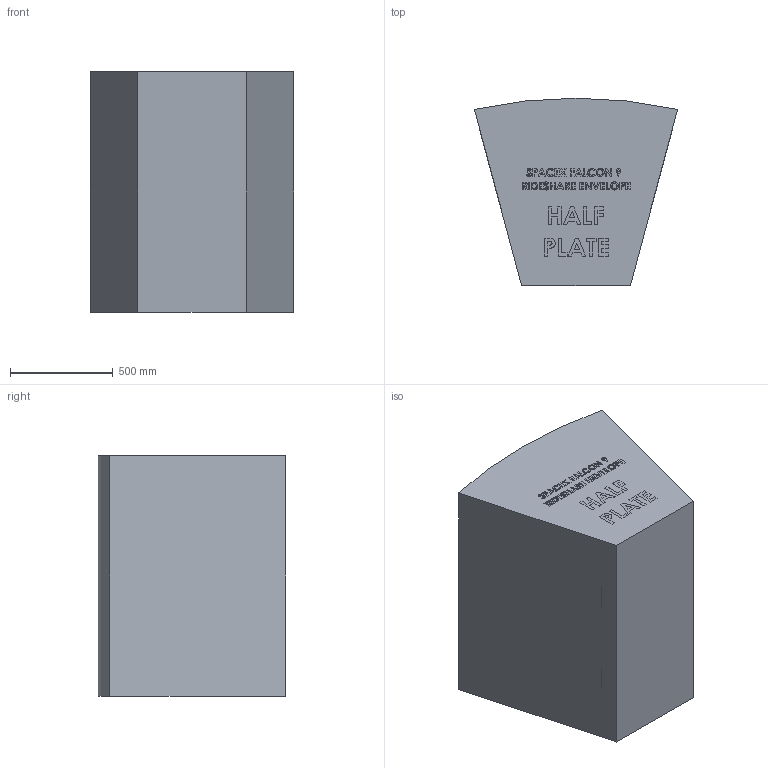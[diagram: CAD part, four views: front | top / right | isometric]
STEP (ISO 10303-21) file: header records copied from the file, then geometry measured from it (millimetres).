
FILE_DESCRIPTION (( 'STEP AP214' ), '1' );
FILE_NAME ('MP42_Gen2.STEP', '2026-09-22T09:25:54', ( '' ), ( '' ), 'SwSTEP 2.0', 'SolidWorks 2024', '' );
FILE_SCHEMA (( 'AUTOMOTIVE_DESIGN' ));
Length unit declared in the file: millimetre
Products named in the file (29): 10040042_Simplified; 10040033; 10039877; 10039998; 10040000; 10040001; 10040046_Structural_FEA; 10040004; 10039994; 10039996_Stowed; 10039989; 10040002; 10040008_S-Ring; 10039978_Simplified stowed; 10039986; 10039992; 10023387; 10039984; 10039985; 10040005; 10039988; Hexalobular Socket Head Screws_ISO 14579 M8 x 40 - 28N-SS 304; 10039987; 10040003; 10039990; MP42_Gen2; 10039982; 10039997; 10039981
Assembly tree (31 placements, depth 6):
  MP42_Gen2
    10039978_Simplified stowed
      10039981
        10039992
        10039985
        10039986
        10039987
        10039988
        10039989
        10039990
        10039994
        10039982
        10039984  x2
      10040008_S-Ring
      10039996_Stowed  x2
        10039997
          10039998
            10040001
            10040000
            10040002
        10040003
          10039998
            10040001
            10040000
            10040002
        10040033
        10040042_Simplified
          10040046_Structural_FEA
          10023387
        10040005
        10040004
        Hexalobular Socket Head Screws_ISO 14579 M8 x 40 - 28N-SS 304
    10039877
Bounding box: 986.25 x 908.59 x 1168.4 mm (x, y, z)
Volume: 826657635.3 mm3; surface area: 10771069.9 mm2
Topology: 41 solids, 41 shells, 3411 faces, 8897 edges, 5664 vertices
Faces by surface type: cylinder 1391, plane 1131, cone 677, bspline 147, torus 57, sphere 8
Entity records: 82112 total; most frequent: CARTESIAN_POINT 26085, ORIENTED_EDGE 11618, DIRECTION 11440, EDGE_CURVE 5809, AXIS2_PLACEMENT_3D 4171, VERTEX_POINT 3727, LINE 3098, VECTOR 3098
